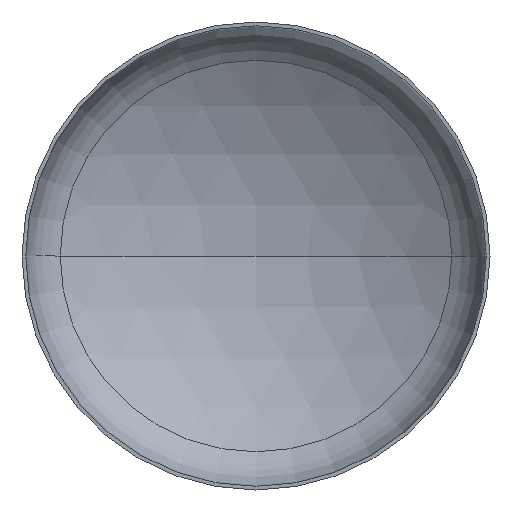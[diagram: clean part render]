
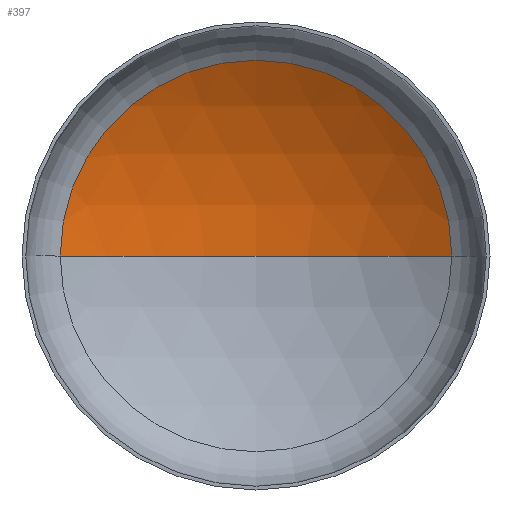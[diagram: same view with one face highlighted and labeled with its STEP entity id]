
A CAD part, front view. The second image highlights one B-rep face of the part: STEP entity #397.
In plain terms, the highlighted spherical face has radius 3600 mm.
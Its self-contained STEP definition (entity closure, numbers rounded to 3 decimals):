
#33 = AXIS2_PLACEMENT_3D ( 'NONE', #406, #46, #35 ) ;
#34 = SPHERICAL_SURFACE ( 'NONE', #266, 3600. ) ;
#35 = DIRECTION ( 'NONE',  ( 1., 0., 0. ) ) ;
#36 = AXIS2_PLACEMENT_3D ( 'NONE', #394, #262, #411 ) ;
#39 = EDGE_LOOP ( 'NONE', ( #63, #54, #267 ) ) ;
#40 = AXIS2_PLACEMENT_3D ( 'NONE', #211, #213, #199 ) ;
#46 = DIRECTION ( 'NONE',  ( 0., 0., 1. ) ) ;
#54 = ORIENTED_EDGE ( 'NONE', *, *, #87, .T. ) ;
#63 = ORIENTED_EDGE ( 'NONE', *, *, #89, .F. ) ;
#85 = EDGE_CURVE ( 'NONE', #131, #143, #308, .T. ) ;
#87 = EDGE_CURVE ( 'NONE', #162, #131, #360, .T. ) ;
#89 = EDGE_CURVE ( 'NONE', #162, #143, #297, .T. ) ;
#96 = DIRECTION ( 'NONE',  ( 0., 0., -1. ) ) ;
#131 = VERTEX_POINT ( 'NONE', #177 ) ;
#143 = VERTEX_POINT ( 'NONE', #224 ) ;
#162 = VERTEX_POINT ( 'NONE', #255 ) ;
#172 = FACE_OUTER_BOUND ( 'NONE', #39, .T. ) ;
#177 = CARTESIAN_POINT ( 'NONE',  ( 1882.41, 702.417, 0. ) ) ;
#199 = DIRECTION ( 'NONE',  ( 1., 0., 0. ) ) ;
#211 = CARTESIAN_POINT ( 'NONE',  ( 0., 702.417, 0. ) ) ;
#213 = DIRECTION ( 'NONE',  ( 0., -1., 0. ) ) ;
#224 = CARTESIAN_POINT ( 'NONE',  ( -1882.41, 702.417, 0. ) ) ;
#255 = CARTESIAN_POINT ( 'NONE',  ( 0., 1233.78, 0. ) ) ;
#262 = DIRECTION ( 'NONE',  ( 0., 0., -1. ) ) ;
#266 = AXIS2_PLACEMENT_3D ( 'NONE', #284, #96, #305 ) ;
#267 = ORIENTED_EDGE ( 'NONE', *, *, #85, .T. ) ;
#284 = CARTESIAN_POINT ( 'NONE',  ( 0., -2366.22, 0. ) ) ;
#297 = CIRCLE ( 'NONE', #33, 3600. ) ;
#305 = DIRECTION ( 'NONE',  ( -1., 0., 0. ) ) ;
#308 = CIRCLE ( 'NONE', #40, 1882.41 ) ;
#360 = CIRCLE ( 'NONE', #36, 3600. ) ;
#394 = CARTESIAN_POINT ( 'NONE',  ( 0., -2366.22, 0. ) ) ;
#397 = ADVANCED_FACE ( 'NONE', ( #172 ), #34, .F. ) ;
#406 = CARTESIAN_POINT ( 'NONE',  ( 0., -2366.22, 0. ) ) ;
#411 = DIRECTION ( 'NONE',  ( -1., 0., 0. ) ) ;
